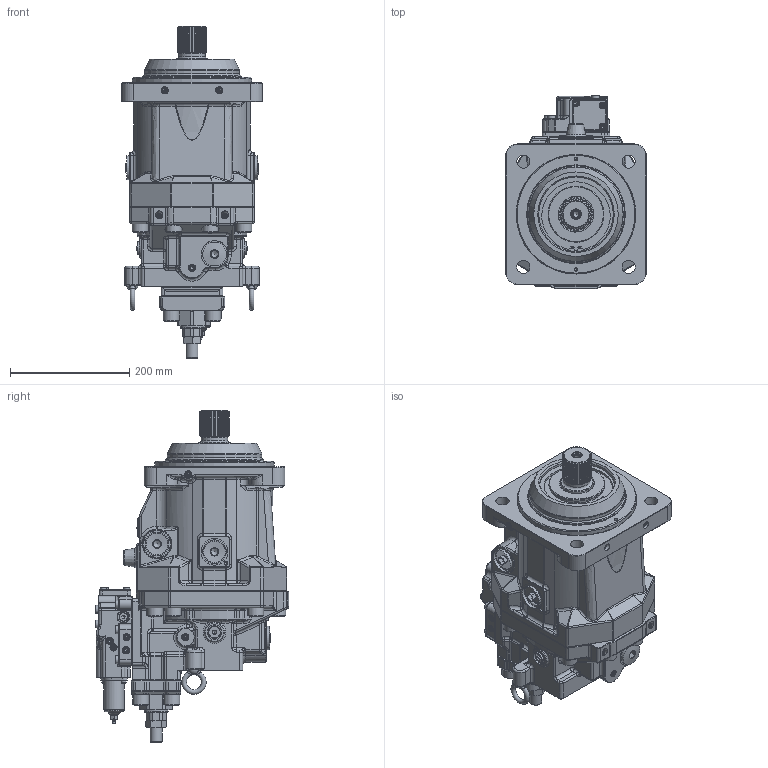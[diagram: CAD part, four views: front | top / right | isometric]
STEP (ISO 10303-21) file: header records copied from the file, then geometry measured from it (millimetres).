
FILE_DESCRIPTION(/* description */ (''),/* implementation_level */ '2;1');
FILE_NAME(/* name */ 'M7V212AC48-AA1E#XXXN-01.stp',/* time_stamp */ '2025-12-17T13:33:34Z',/* author */ ('Sjolliffe'),/* organization */ (''),/* preprocessor_version */ 'ST-DEVELOPER v20',/* originating_system */ 'Autodesk Inventor 2024',/* authorisation */ '');
FILE_SCHEMA (('CONFIG_CONTROL_DESIGN'));
Products named in the file (1): M7V212AC48-AA1E#XXXN-01
Bounding box: 236 x 325.5 x 557.5 mm (x, y, z)
Volume: 15032111.5 mm3; surface area: 591186.8 mm2
Topology: 1 solids, 1 shells, 3971 faces, 10015 edges, 6135 vertices
Faces by surface type: plane 1561, cylinder 1291, bspline 496, cone 362, torus 202, sphere 59
Full cylindrical faces by diameter (mm): 1.44 x2, 3 x2, 4.5 x1, 5 x4, 6 x6, 8.376 x2, 8.5 x2, 9.4 x19, 10 x6, 10.106 x1, 11 x4, 11.835 x8, 12 x20, 13 x6, 14 x15, 19 x1, 20 x1, 21 x3, 22 x4, 25 x2, 27 x12, 29 x8, 31.2 x1, 32 x2, 34.3 x1, 40 x6, 44.6 x1, 45 x4, 55 x1, 59 x1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
Entity records: 139474 total; most frequent: CARTESIAN_POINT 42493, ORIENTED_EDGE 19738, DIRECTION 19119, EDGE_CURVE 9869, AXIS2_PLACEMENT_3D 7116, VERTEX_POINT 6134, LINE 4887, VECTOR 4887
